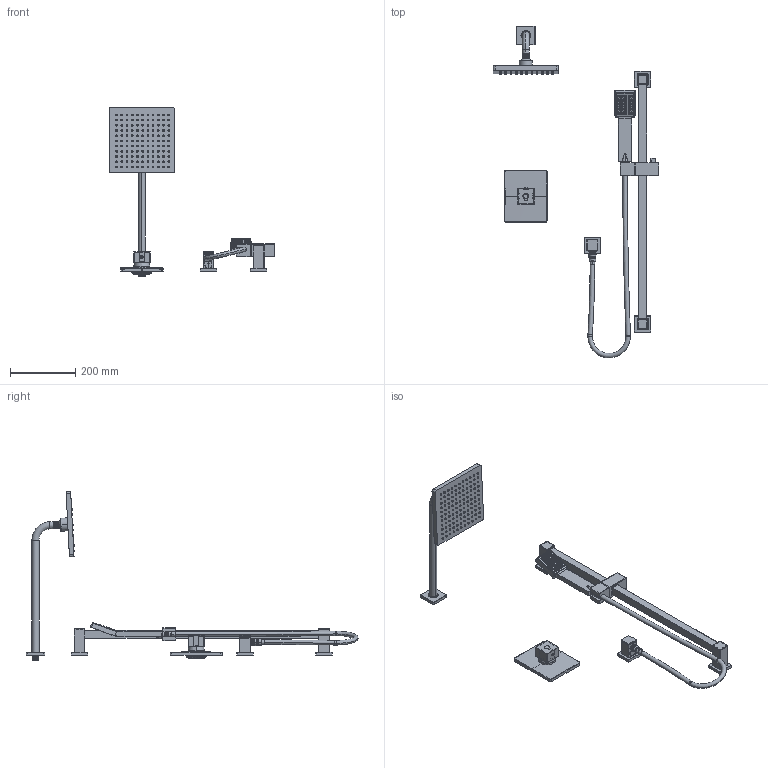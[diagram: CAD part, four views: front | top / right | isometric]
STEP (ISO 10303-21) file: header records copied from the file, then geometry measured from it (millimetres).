
FILE_DESCRIPTION (( 'STEP AP214' ), '1' );
FILE_NAME ('O25-9170-x5-3D.STEP', '2024-10-31T19:16:10', ( '' ), ( '' ), 'SwSTEP 2.0', 'SolidWorks 2024', '' );
FILE_SCHEMA (( 'AUTOMOTIVE_DESIGN' ));
Length unit declared in the file: millimetre
Products named in the file (30): O25-9170-x5-3D_2; BRA-1612-84-3D; O25-9170-x5-3D_8; O25-9170-x5-3D_5; O25-9170-x5-3D_7; TET-0808-41-3D; O25-9170-x5-3D_4; O25-9170-x5-3D_18; O25-9170-x5-3D_14; O25-9170-x5-3D_19; O25-9170-x5-3D_10; O25-9170-x5-3D_23; O25-9170-x5-3D_26; O25-9170-x5-3D_6; BRA-1612-843.STEP; BRA-1612-841.STEP; O25-9170-x5-3D_17; BRA-1612-84.STEP; O25-9170-x5-3D_3; O25-9170-x5-3D_15; O25-9170-x5-3D; BRA-1612-842.STEP; O25-9170-x5-3D_20; BRA-1612-84; O25-9170-x5-3D_12; O25-9170-x5-3D_11; O25-9170-x5-3D_1; TET-0808-01-3D_1; O25-9170-x5-3D_25; O25-9170-x5-3D_16
Assembly tree (29 placements, depth 5):
  O25-9170-x5-3D
    O25-9170-x5-3D_1
    O25-9170-x5-3D_2
    O25-9170-x5-3D_3
    O25-9170-x5-3D_4
    O25-9170-x5-3D_5
    O25-9170-x5-3D_6
    O25-9170-x5-3D_7
    O25-9170-x5-3D_8
    O25-9170-x5-3D_10
    O25-9170-x5-3D_11
    O25-9170-x5-3D_12
    O25-9170-x5-3D_14
    O25-9170-x5-3D_15
    O25-9170-x5-3D_16
    O25-9170-x5-3D_17
    O25-9170-x5-3D_18
    O25-9170-x5-3D_19
    O25-9170-x5-3D_20
    O25-9170-x5-3D_23
    O25-9170-x5-3D_25
    O25-9170-x5-3D_26
    BRA-1612-84-3D
      BRA-1612-84
        BRA-1612-84.STEP
          BRA-1612-841.STEP
          BRA-1612-842.STEP
          BRA-1612-843.STEP
    TET-0808-41-3D
      TET-0808-01-3D_1
Bounding box: 507.5 x 1017.9 x 517.91 mm (x, y, z)
Volume: 2038891.5 mm3; surface area: 540216.8 mm2
Topology: 25 solids, 25 shells, 3357 faces, 7881 edges, 5014 vertices
Faces by surface type: plane 1662, cylinder 1120, sphere 218, cone 174, torus 102, bspline 81
Entity records: 112406 total; most frequent: CARTESIAN_POINT 34865, DIRECTION 16008, ORIENTED_EDGE 15744, EDGE_CURVE 7872, AXIS2_PLACEMENT_3D 6181, VERTEX_POINT 5014, EDGE_LOOP 3836, LINE 3646
